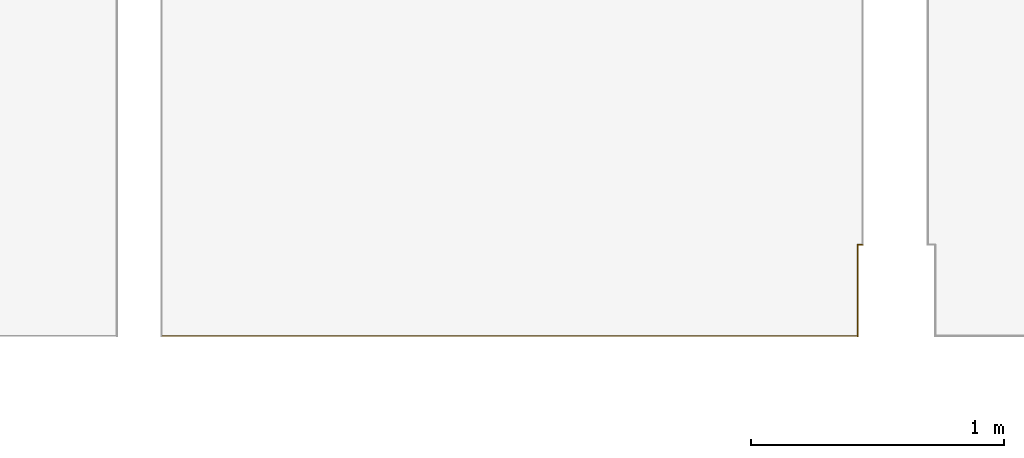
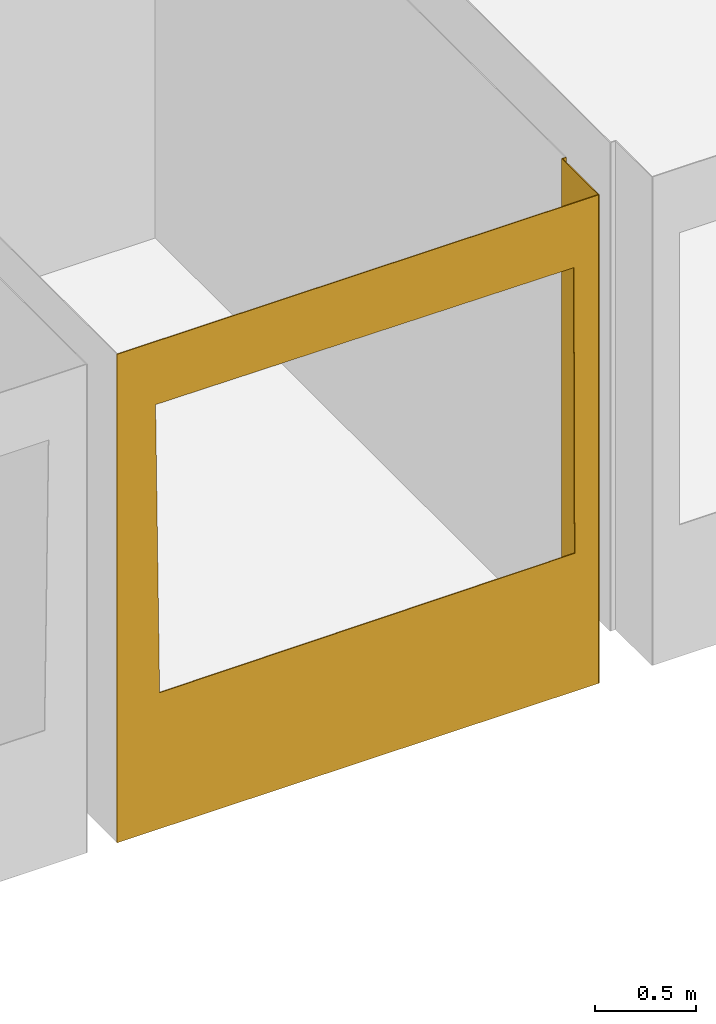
# One storey, part 17 of 33: 3 coverings, 1 opening.
"""IFC2X3 building model written with IfcOpenShell, lengths in millimetres."""

from ifc_helpers import new_model, entity, si_unit, converted_unit, derived_unit, money_unit, direction, frame, origin_with_axes, place, context, subcontext, project, spatial, polyline, outline, extrude, material, type_object, element, save


model = new_model("IFC2X3")

# Units and contexts
model_context = context("Model", 3, precision=0.01, world=origin_with_axes(), true_north=direction((0.0, 1.0)))
body_context = subcontext(model_context, "Body", "Model", "MODEL_VIEW")
ifc_project = project(units=[si_unit("LENGTHUNIT", "METRE", prefix="MILLI"), si_unit("AREAUNIT", "SQUARE_METRE"), si_unit("VOLUMEUNIT", "CUBIC_METRE"), converted_unit("PLANEANGLEUNIT", "DEGREE", entity("IfcPlaneAngleMeasure", 0.0174532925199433), si_unit("PLANEANGLEUNIT", "RADIAN"), dimensions=[0, 0, 0, 0, 0, 0, 0]), money_unit("EUR"), converted_unit("TIMEUNIT", "Year", entity("IfcTimeMeasure", 31556926.0), si_unit("TIMEUNIT", "SECOND"), dimensions=[0, 0, 1, 0, 0, 0, 0]), si_unit("MASSUNIT", "GRAM", prefix="KILO"), si_unit("THERMODYNAMICTEMPERATUREUNIT", "DEGREE_CELSIUS"), si_unit("LUMINOUSINTENSITYUNIT", "LUMEN"), si_unit("ENERGYUNIT", "JOULE", prefix="MEGA"), derived_unit("THERMALCONDUCTANCEUNIT", [(si_unit("POWERUNIT", "WATT"), 1), (si_unit("LENGTHUNIT", "METRE"), -1), (si_unit("THERMODYNAMICTEMPERATUREUNIT", "KELVIN"), -1)]), derived_unit("SPECIFICHEATCAPACITYUNIT", [(si_unit("ENERGYUNIT", "JOULE"), 1), (si_unit("MASSUNIT", "GRAM", prefix="KILO"), -1), (si_unit("THERMODYNAMICTEMPERATUREUNIT", "KELVIN"), -1)]), derived_unit("MASSDENSITYUNIT", [(si_unit("MASSUNIT", "GRAM", prefix="KILO"), 1), (si_unit("VOLUMEUNIT", "CUBIC_METRE"), -1)])], contexts=[model_context])

# Site, building, storey
site_placement = place(None, origin_with_axes())
site = spatial("IfcSite", under=ifc_project, at=site_placement, Name="Paldiski mnt 245/1, Tallinn, Harjumaa", CompositionType="COMPLEX")
building_placement = place(site_placement, origin_with_axes())
building = spatial("IfcBuilding", under=site, at=building_placement, Name="RKAS Hoone üldnimetus (kasutust iseloomustav) -> IFC Project Manager -> SOLIBRI", CompositionType="ELEMENT")
storey_placement = place(building_placement, origin_with_axes())
storey = spatial("IfcBuildingStorey", under=building, at=storey_placement, Name="Esimene korrus", CompositionType="ELEMENT", Elevation=0.0)

# Covering, opening
ifc_material = material(Name="SA- Värv SM5(valge)")
covering_type = type_object("IfcCoveringType", Name="SA- Värv SM5(valge) 5", PredefinedType="CLADDING")
covering_1_placement = place(storey_placement, frame((-26365.00000000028, -12510.08430107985, 0.0), z_axis=(0.0, 0.0, 1.0), x_axis=(0.999999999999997, 7.768306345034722e-08, 0.0)))
covering_1 = element("IfcCovering", 1, at=covering_1_placement, inside=storey, type_object=covering_type, material=ifc_material, Name="SM5", PredefinedType="CLADDING", context=body_context, shape_type="SweptSolid", body=[
    extrude(outline(polyline([(0.0, 0.0), (2755.000000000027, 0.0), (2755.000000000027, 5.000000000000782), (0.0, 5.000000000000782), (0.0, 0.0)])), origin_with_axes(), (0.0, 0.0, 1.0), 2950.0),
])
opening_placement = place(covering_1_placement, frame((26365.00097182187, 12510.08225296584, 0.0), z_axis=(0.0, 0.0, 1.0), x_axis=(0.999999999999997, -7.768306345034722e-08, 0.0)))
element("IfcOpeningElement", 2, at=opening_placement, cuts=covering_1, Name="AVA", ObjectType="OPENING", context=body_context, shape_type="SweptSolid", body=[
    extrude(outline(polyline([(-1174.543463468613, -873.9799106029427), (1197.565393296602, -862.6495144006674), (1192.776129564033, 864.4336486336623), (-1197.565393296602, 873.9799106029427), (-1174.543463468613, -873.9799106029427)])), frame((-24947.62952701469, -12515.08451509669, 1695.640685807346), z_axis=(7.768306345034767e-08, -0.999999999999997, 0.0), x_axis=(0.999999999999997, 7.768306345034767e-08, 0.0)), (0.0, 0.0, -1.0), 15.00064205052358),
])

# Coverings
covering_2_placement = place(storey_placement, frame((-23610.00000000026, -12510.08408706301, 0.0), z_axis=(0.0, 0.0, 1.0), x_axis=(0.0, 1.0, 0.0)))
element("IfcCovering", 3, at=covering_2_placement, inside=storey, type_object=covering_type, material=ifc_material, Name="SM5", PredefinedType="CLADDING", context=body_context, shape_type="SweptSolid", body=[
    extrude(outline(polyline([(-0.0002140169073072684, 0.0), (360.0000000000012, 0.0), (364.9999993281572, 4.999999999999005), (-0.0002140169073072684, 4.999999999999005), (-0.0002140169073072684, 0.0)])), origin_with_axes(), (0.0, 0.0, 1.0), 2950.0),
])
covering_3_placement = place(storey_placement, frame((-23610.00000000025, -12150.08408706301, 0.0), z_axis=(0.0, 0.0, 1.0), x_axis=(0.999999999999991, 1.343689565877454e-07, 0.0)))
element("IfcCovering", 4, at=covering_3_placement, inside=storey, type_object=covering_type, material=ifc_material, Name="SM5", PredefinedType="CLADDING", context=body_context, shape_type="SweptSolid", body=[
    extrude(outline(polyline([(0.0, 0.0), (20.00000056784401, 0.0), (15.00000116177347, 5.000000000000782), (-4.99999932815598, 5.000000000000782), (0.0, 0.0)])), origin_with_axes(), (0.0, 0.0, 1.0), 2950.0),
])

save(model, "model.ifc")
